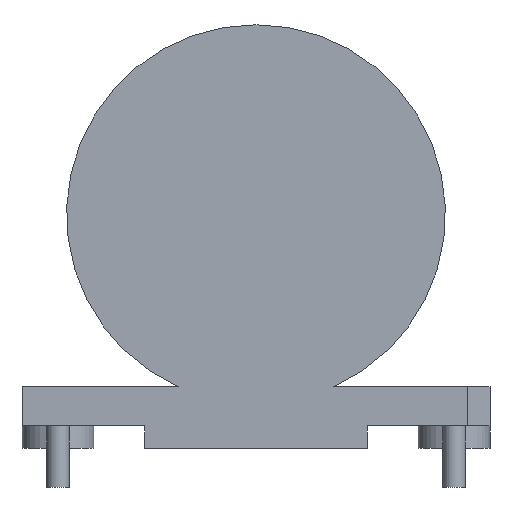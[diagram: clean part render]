
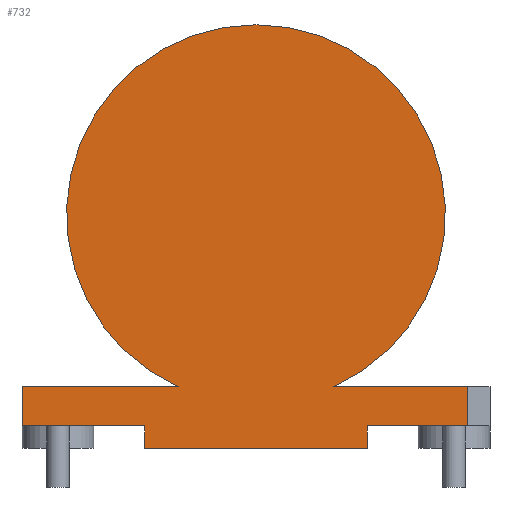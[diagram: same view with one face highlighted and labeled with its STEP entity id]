
A CAD part, front view. The second image highlights one B-rep face of the part: STEP entity #732.
In plain terms, the highlighted planar face has unit normal (0, -1, 0).
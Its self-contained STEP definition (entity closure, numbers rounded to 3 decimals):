
#47=CIRCLE('',#796,17.);
#85=FACE_OUTER_BOUND('',#140,.T.);
#140=EDGE_LOOP('',(#621,#622,#623,#624,#625,#626,#627,#628,#629,#630));
#147=LINE('',#1006,#228);
#154=LINE('',#1020,#235);
#172=LINE('',#1061,#253);
#205=LINE('',#1157,#286);
#211=LINE('',#1168,#292);
#212=LINE('',#1170,#293);
#220=LINE('',#1191,#301);
#221=LINE('',#1193,#302);
#222=LINE('',#1194,#303);
#228=VECTOR('',#808,10.);
#235=VECTOR('',#819,10.);
#253=VECTOR('',#851,10.);
#286=VECTOR('',#948,10.);
#292=VECTOR('',#958,10.);
#293=VECTOR('',#961,10.);
#301=VECTOR('',#983,10.);
#302=VECTOR('',#984,10.);
#303=VECTOR('',#985,10.);
#309=VERTEX_POINT('',#1003);
#310=VERTEX_POINT('',#1005);
#315=VERTEX_POINT('',#1019);
#330=VERTEX_POINT('',#1058);
#331=VERTEX_POINT('',#1060);
#362=VERTEX_POINT('',#1156);
#365=VERTEX_POINT('',#1166);
#369=VERTEX_POINT('',#1183);
#371=VERTEX_POINT('',#1187);
#372=VERTEX_POINT('',#1192);
#375=EDGE_CURVE('',#309,#310,#147,.T.);
#382=EDGE_CURVE('',#315,#310,#154,.T.);
#403=EDGE_CURVE('',#331,#330,#172,.T.);
#445=EDGE_CURVE('',#315,#362,#205,.T.);
#451=EDGE_CURVE('',#330,#365,#211,.T.);
#452=EDGE_CURVE('',#362,#365,#212,.T.);
#461=EDGE_CURVE('',#369,#371,#47,.T.);
#462=EDGE_CURVE('',#369,#309,#220,.T.);
#463=EDGE_CURVE('',#372,#371,#221,.T.);
#464=EDGE_CURVE('',#331,#372,#222,.T.);
#621=ORIENTED_EDGE('',*,*,#375,.F.);
#622=ORIENTED_EDGE('',*,*,#462,.F.);
#623=ORIENTED_EDGE('',*,*,#461,.T.);
#624=ORIENTED_EDGE('',*,*,#463,.F.);
#625=ORIENTED_EDGE('',*,*,#464,.F.);
#626=ORIENTED_EDGE('',*,*,#403,.T.);
#627=ORIENTED_EDGE('',*,*,#451,.T.);
#628=ORIENTED_EDGE('',*,*,#452,.F.);
#629=ORIENTED_EDGE('',*,*,#445,.F.);
#630=ORIENTED_EDGE('',*,*,#382,.T.);
#689=PLANE('',#797);
#732=ADVANCED_FACE('',(#85),#689,.T.);
#796=AXIS2_PLACEMENT_3D('',#1189,#979,#980);
#797=AXIS2_PLACEMENT_3D('',#1190,#981,#982);
#808=DIRECTION('',(0.,0.,-1.));
#819=DIRECTION('',(1.,0.,0.));
#851=DIRECTION('',(1.,0.,0.));
#948=DIRECTION('',(0.,0.,-1.));
#958=DIRECTION('',(0.,0.,-1.));
#961=DIRECTION('',(-1.,0.,0.));
#979=DIRECTION('center_axis',(0.,-1.,0.));
#980=DIRECTION('ref_axis',(1.,0.,0.));
#981=DIRECTION('center_axis',(0.,-1.,0.));
#982=DIRECTION('ref_axis',(1.,0.,0.));
#983=DIRECTION('',(1.,0.,0.));
#984=DIRECTION('',(1.,0.,0.));
#985=DIRECTION('',(0.,0.,1.));
#1003=CARTESIAN_POINT('',(19.,-13.5,3.5));
#1005=CARTESIAN_POINT('',(19.,-13.5,0.));
#1006=CARTESIAN_POINT('',(19.,-13.5,0.));
#1019=CARTESIAN_POINT('',(10.,-13.5,0.));
#1020=CARTESIAN_POINT('',(-21.,-13.5,0.));
#1058=CARTESIAN_POINT('',(-10.,-13.5,0.));
#1060=CARTESIAN_POINT('',(-21.,-13.5,0.));
#1061=CARTESIAN_POINT('',(-21.,-13.5,0.));
#1156=CARTESIAN_POINT('',(10.,-13.5,-2.));
#1157=CARTESIAN_POINT('',(10.,-13.5,0.));
#1166=CARTESIAN_POINT('',(-10.,-13.5,-2.));
#1168=CARTESIAN_POINT('',(-10.,-13.5,0.));
#1170=CARTESIAN_POINT('',(-21.,-13.5,-2.));
#1183=CARTESIAN_POINT('',(6.982,-13.5,3.5));
#1187=CARTESIAN_POINT('',(-6.982,-13.5,3.5));
#1189=CARTESIAN_POINT('Origin',(0.,-13.5,19.));
#1190=CARTESIAN_POINT('Origin',(-21.,-13.5,0.));
#1191=CARTESIAN_POINT('',(-21.,-13.5,3.5));
#1192=CARTESIAN_POINT('',(-21.,-13.5,3.5));
#1193=CARTESIAN_POINT('',(-21.,-13.5,3.5));
#1194=CARTESIAN_POINT('',(-21.,-13.5,0.));
